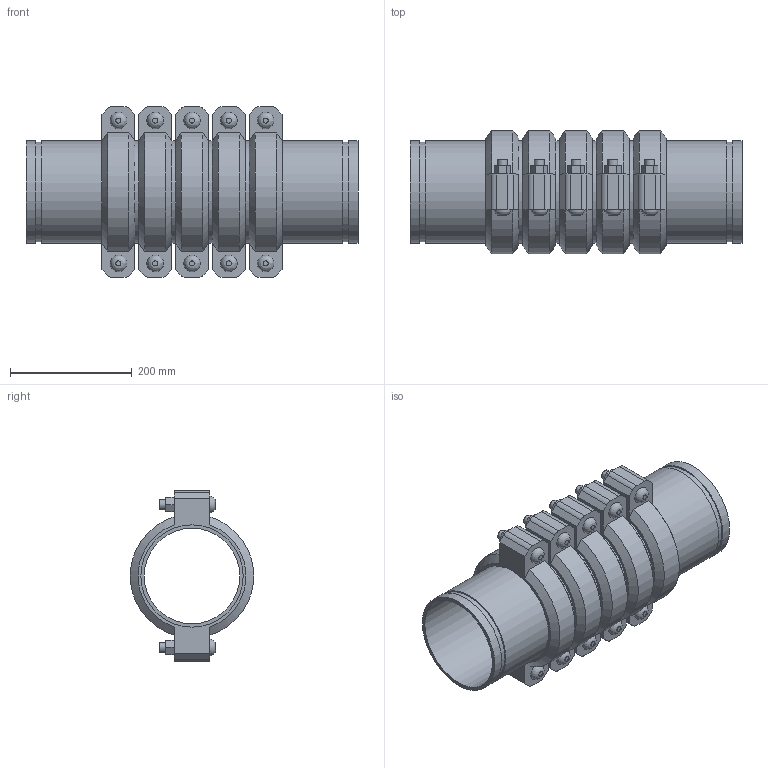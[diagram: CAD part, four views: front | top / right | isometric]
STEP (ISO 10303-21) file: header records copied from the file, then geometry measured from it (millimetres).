
FILE_DESCRIPTION(/* description */ ('VIC EXPANSION JOINT 5 COUPLINGS COMPRESSED STYLE 155 (OGS)','CAx-IF Rec.Pracs.---Representation and Presentation of Product Manufacturing Information (PMI)---4.0---2014-10-13'),/* implementation_level */ '2;1');
FILE_NAME(/* name */ 'C:\Users\kkamble\AppData\Roaming\Autodesk\ApplicationPlugins\Victaulic.Temp\A136\Victaulic_IPS_Expansion Joint_Compressed_5 Couplings_Style 155 (OGS)_6 (150).stp',/* time_stamp */ '2021-06-27T00:29:57+02:00',/* author */ ('kkamble'),/* organization */ ('Victaulic'),/* preprocessor_version */ 'ST-DEVELOPER v17.2',/* originating_system */ 'Autodesk Inventor 2019',/* authorisation */ '');
FILE_SCHEMA (('AP242_MANAGED_MODEL_BASED_3D_ENGINEERING_MIM_LF { 1 0 10303 442 1 1 4 }'));
Length unit declared in the file: inch
Products named in the file (4): 155-06.0; Nipple-06.0; Nipple-06.0_1; 075_5_Coup-06.0
Assembly tree (11 placements, depth 2):
  155-06.0
    Nipple-06.0  x2
    Nipple-06.0_1  x4
    075_5_Coup-06.0  x5
Bounding box: 545.85 x 202.46 x 281.18 mm (x, y, z)
Volume: 5168486.7 mm3; surface area: 1181470.4 mm2
Topology: 11 solids, 21 shells, 357 faces, 845 edges, 594 vertices
Faces by surface type: plane 216, cylinder 111, cone 20, bspline 10
Full cylindrical faces by diameter (mm): 15.875 x20, 17.424 x10, 157.15 x6, 161.925 x5, 163.957 x12, 168.275 x28
Entity records: 2810 total; most frequent: CARTESIAN_POINT 495, DIRECTION 465, ORIENTED_EDGE 386, EDGE_CURVE 193, AXIS2_PLACEMENT_3D 186, VERTEX_POINT 138, EDGE_LOOP 107, LINE 93
